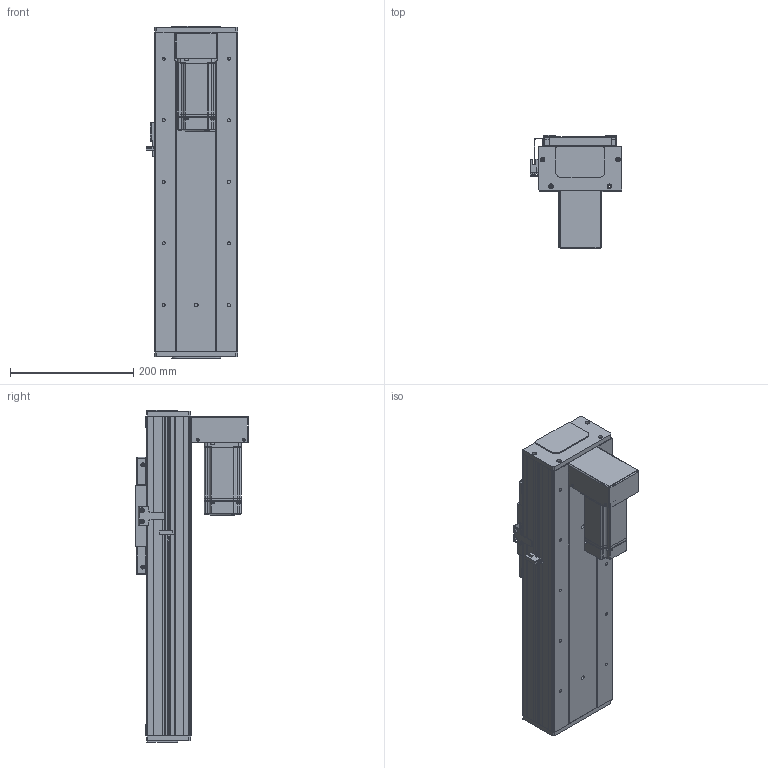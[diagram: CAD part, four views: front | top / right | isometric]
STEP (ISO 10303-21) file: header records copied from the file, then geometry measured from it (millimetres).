
FILE_DESCRIPTION (( 'STEP AP203' ), '1' );
FILE_NAME ('RY140F-L2020-300-BK.SLDASM_250.step', '2021-03-02T08:26:20', ( '盈信电脑' ), ( '东莞市道滘镇水果街19号' ), 'SwSTEP 2.0', 'SolidWorks 2012', '' );
FILE_SCHEMA (( 'CONFIG_CONTROL_DESIGN' ));
Products named in the file (21): RY140F-直连型材铝滑块(16丝杆); 滅袉蝶18-10; RY140F-L2020-300-BK.SLDASM_250; RY140F-狟殏萇儂欶(400W); RY140F-狟殏萇儂啣(400W M5); RY140F-詩湍嘐隅輸; 侐源滅袉蝶; RY140F-672覜茼んえ; RY140F-詩湍揤え; 覜茼ん672; 侂狟400W侜督萇儂; 15; RY140F-后盖板(铝件）; RY100F-詩湍揤踡謫; RY140F-詩湍幗謫粣; 藻笠沭; RY140F-直连型材铝滑块连接座; RY140F-滅鳥奻裔; RY140F-300-BK倰第奻裔啣_250; RY140F-300-BK蛌殏詩湍_250; RY140F-300-BK倰第菁釱_250
Assembly tree (26 placements, depth 3):
  RY140F-L2020-300-BK.SLDASM_250
    RY140F-300-BK倰第菁釱_250
    RY140F-300-BK倰第奻裔啣_250  x2
    RY140F-300-BK蛌殏詩湍_250
    RY140F-直连型材铝滑块连接座
    RY140F-滅鳥奻裔
    RY140F-詩湍幗謫粣
    藻笠沭  x2
    RY100F-詩湍揤踡謫
    RY140F-后盖板(铝件）  x2
    侂狟400W侜督萇儂
      15
    覜茼ん672
    RY140F-672覜茼んえ
    RY140F-詩湍揤え  x2
    侐源滅袉蝶  x2
    RY140F-狟殏萇儂啣(400W M5)
    RY140F-狟殏萇儂欶(400W)
    RY140F-詩湍嘐隅輸
    滅袉蝶18-10  x2
    RY140F-直连型材铝滑块(16丝杆)
Bounding box: 148.7 x 184.5 x 539 mm (x, y, z)
Volume: 2597324.8 mm3; surface area: 907286.7 mm2
Topology: 25 solids, 25 shells, 1944 faces, 5328 edges, 3416 vertices
Faces by surface type: cylinder 931, plane 811, cone 176, bspline 22, torus 4
Entity records: 61416 total; most frequent: CARTESIAN_POINT 13015, DIRECTION 9723, ORIENTED_EDGE 9532, EDGE_CURVE 4766, AXIS2_PLACEMENT_3D 3452, VERTEX_POINT 3120, LINE 2819, VECTOR 2819
